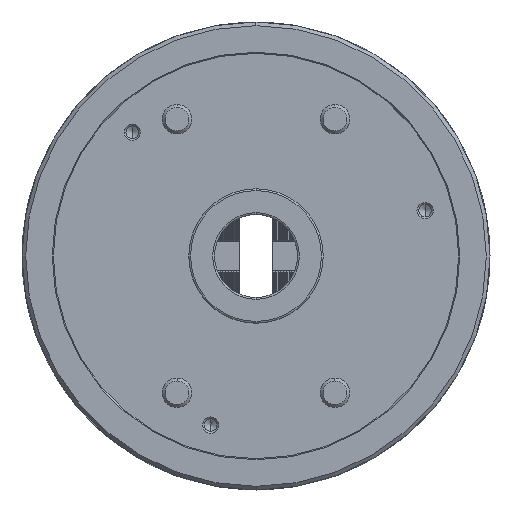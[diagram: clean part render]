
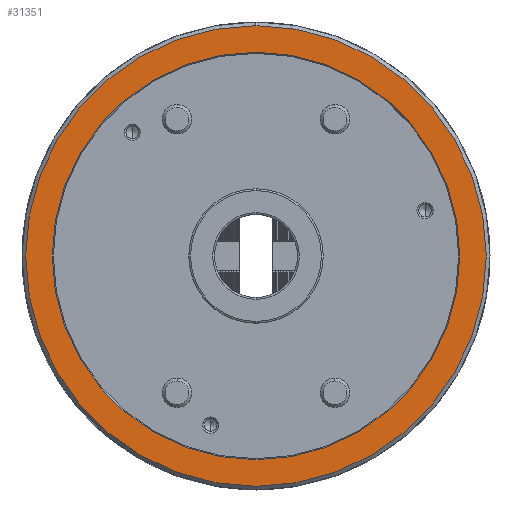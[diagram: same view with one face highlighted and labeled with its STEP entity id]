
A CAD part, left-side view. The second image highlights one B-rep face of the part: STEP entity #31351.
In plain terms, the highlighted planar face has unit normal (-1, 0, 0) as drawn and (0, 0, -1) by its records, which use the part's own axes.
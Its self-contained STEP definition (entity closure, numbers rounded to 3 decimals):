
#2567 = EDGE_CURVE ( 'NONE', #49977, #9350, #6701, .T. ) ;
#2966 = CARTESIAN_POINT ( 'NONE',  ( 0., 0., -117. ) ) ;
#5663 = AXIS2_PLACEMENT_3D ( 'NONE', #9228, #36350, #13119 ) ;
#6459 = AXIS2_PLACEMENT_3D ( 'NONE', #2966, #30143, #6839 ) ;
#6701 = CIRCLE ( 'NONE', #19232, 110.6 ) ;
#6757 = CIRCLE ( 'NONE', #40345, 110.6 ) ;
#6839 = DIRECTION ( 'NONE',  ( 1., 0., 0. ) ) ;
#8568 = EDGE_CURVE ( 'NONE', #11345, #23939, #27371, .T. ) ;
#9228 = CARTESIAN_POINT ( 'NONE',  ( 0., 0., -117. ) ) ;
#9350 = VERTEX_POINT ( 'NONE', #27673 ) ;
#11345 = VERTEX_POINT ( 'NONE', #42223 ) ;
#11824 = ORIENTED_EDGE ( 'NONE', *, *, #14131, .T. ) ;
#13119 = DIRECTION ( 'NONE',  ( 1., 0., 0. ) ) ;
#14131 = EDGE_CURVE ( 'NONE', #9350, #49977, #6757, .T. ) ;
#14419 = DIRECTION ( 'NONE',  ( 1., 0., 0. ) ) ;
#14986 = ORIENTED_EDGE ( 'NONE', *, *, #8568, .F. ) ;
#16730 = EDGE_LOOP ( 'NONE', ( #14986, #32633 ) ) ;
#18578 = CARTESIAN_POINT ( 'NONE',  ( 0., 0., -117. ) ) ;
#19232 = AXIS2_PLACEMENT_3D ( 'NONE', #18578, #45685, #22522 ) ;
#21005 = CARTESIAN_POINT ( 'NONE',  ( 0., 0., -117. ) ) ;
#21033 = CARTESIAN_POINT ( 'NONE',  ( -125., 0., -117. ) ) ;
#22059 = FACE_BOUND ( 'NONE', #32615, .T. ) ;
#22522 = DIRECTION ( 'NONE',  ( 1., 0., 0. ) ) ;
#23081 = ORIENTED_EDGE ( 'NONE', *, *, #2567, .T. ) ;
#23939 = VERTEX_POINT ( 'NONE', #21033 ) ;
#24900 = DIRECTION ( 'NONE',  ( 1., 0., 0. ) ) ;
#27371 = CIRCLE ( 'NONE', #6459, 125. ) ;
#27673 = CARTESIAN_POINT ( 'NONE',  ( -110.6, 0., -117. ) ) ;
#29786 = AXIS2_PLACEMENT_3D ( 'NONE', #37464, #37628, #14419 ) ;
#29884 = PLANE ( 'NONE',  #29786 ) ;
#30143 = DIRECTION ( 'NONE',  ( 0., 0., 1. ) ) ;
#30636 = EDGE_CURVE ( 'NONE', #23939, #11345, #43367, .T. ) ;
#31170 = FACE_OUTER_BOUND ( 'NONE', #16730, .T. ) ;
#31351 = ADVANCED_FACE ( 'NONE', ( #31170, #22059 ), #29884, .F. ) ;
#32615 = EDGE_LOOP ( 'NONE', ( #11824, #23081 ) ) ;
#32633 = ORIENTED_EDGE ( 'NONE', *, *, #30636, .F. ) ;
#36350 = DIRECTION ( 'NONE',  ( 0., 0., 1. ) ) ;
#37464 = CARTESIAN_POINT ( 'NONE',  ( 0., -110.6, -117. ) ) ;
#37628 = DIRECTION ( 'NONE',  ( 0., 0., 1. ) ) ;
#40345 = AXIS2_PLACEMENT_3D ( 'NONE', #21005, #48057, #24900 ) ;
#40439 = CARTESIAN_POINT ( 'NONE',  ( 110.6, 0., -117. ) ) ;
#42223 = CARTESIAN_POINT ( 'NONE',  ( 125., 0., -117. ) ) ;
#43367 = CIRCLE ( 'NONE', #5663, 125. ) ;
#45685 = DIRECTION ( 'NONE',  ( 0., 0., 1. ) ) ;
#48057 = DIRECTION ( 'NONE',  ( 0., 0., 1. ) ) ;
#49977 = VERTEX_POINT ( 'NONE', #40439 ) ;
